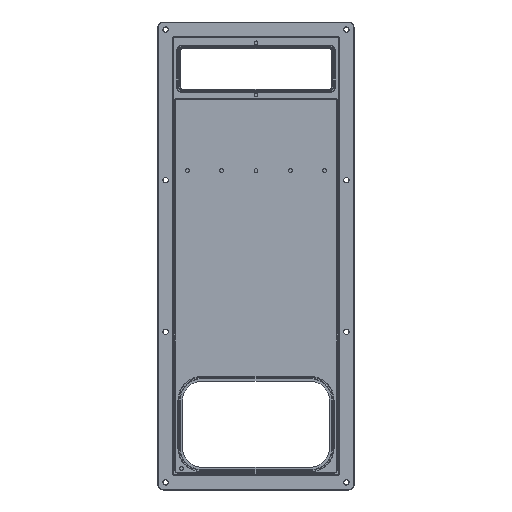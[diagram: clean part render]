
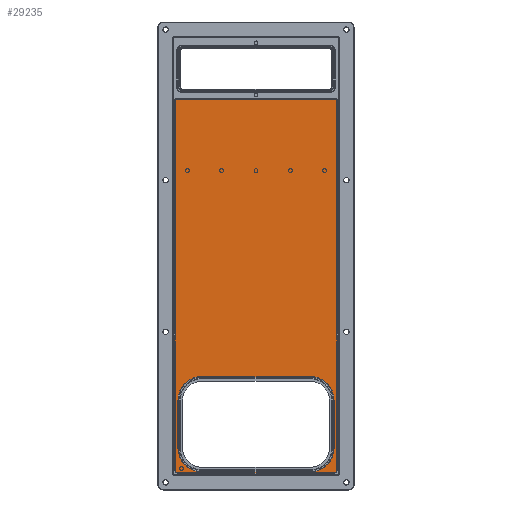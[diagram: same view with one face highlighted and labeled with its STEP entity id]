
A CAD part, front view. The second image highlights one B-rep face of the part: STEP entity #29235.
In plain terms, the highlighted planar face has unit normal (0, -1, 0).
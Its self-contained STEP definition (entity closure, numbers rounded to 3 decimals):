
#322=DIRECTION('',(1.,0.,0.));
#323=VECTOR('',#322,86.);
#324=CARTESIAN_POINT('',(-43.,-3.,-170.711));
#325=LINE('',#324,#323);
#326=CARTESIAN_POINT('',(43.,-3.,-152.));
#327=DIRECTION('',(0.,-1.,0.));
#328=DIRECTION('',(0.,0.,-1.));
#329=AXIS2_PLACEMENT_3D('',#326,#327,#328);
#331=DIRECTION('',(0.,0.,1.));
#332=VECTOR('',#331,38.);
#333=CARTESIAN_POINT('',(61.711,-3.,-152.));
#334=LINE('',#333,#332);
#335=CARTESIAN_POINT('',(43.,-3.,-114.));
#336=DIRECTION('',(0.,-1.,0.));
#337=DIRECTION('',(1.,0.,0.));
#338=AXIS2_PLACEMENT_3D('',#335,#336,#337);
#340=DIRECTION('',(-1.,0.,0.));
#341=VECTOR('',#340,86.);
#342=CARTESIAN_POINT('',(43.,-3.,-95.289));
#343=LINE('',#342,#341);
#344=CARTESIAN_POINT('',(-43.,-3.,-114.));
#345=DIRECTION('',(0.,-1.,0.));
#346=DIRECTION('',(0.,0.,1.));
#347=AXIS2_PLACEMENT_3D('',#344,#345,#346);
#349=DIRECTION('',(0.,0.,-1.));
#350=VECTOR('',#349,38.);
#351=CARTESIAN_POINT('',(-61.711,-3.,-114.));
#352=LINE('',#351,#350);
#353=CARTESIAN_POINT('',(-43.,-3.,-152.));
#354=DIRECTION('',(0.,-1.,0.));
#355=DIRECTION('',(-1.,0.,0.));
#356=AXIS2_PLACEMENT_3D('',#353,#354,#355);
#394=DIRECTION('',(0.,0.,1.));
#395=VECTOR('',#394,293.239);
#396=CARTESIAN_POINT('',(63.739,-3.,-169.439));
#397=LINE('',#396,#395);
#398=CARTESIAN_POINT('',(61.939,-3.,-171.239));
#399=CARTESIAN_POINT('',(61.978,-3.,-171.239));
#400=CARTESIAN_POINT('',(62.057,-3.,-171.236));
#401=CARTESIAN_POINT('',(62.174,-3.,-171.225));
#402=CARTESIAN_POINT('',(62.291,-3.,-171.206));
#403=CARTESIAN_POINT('',(62.405,-3.,-171.179));
#404=CARTESIAN_POINT('',(62.518,-3.,-171.145));
#405=CARTESIAN_POINT('',(62.628,-3.,-171.103));
#406=CARTESIAN_POINT('',(62.736,-3.,-171.054));
#407=CARTESIAN_POINT('',(62.84,-3.,-170.999));
#408=CARTESIAN_POINT('',(62.94,-3.,-170.937));
#409=CARTESIAN_POINT('',(63.036,-3.,-170.868));
#410=CARTESIAN_POINT('',(63.127,-3.,-170.793));
#411=CARTESIAN_POINT('',(63.213,-3.,-170.713));
#412=CARTESIAN_POINT('',(63.293,-3.,-170.627));
#413=CARTESIAN_POINT('',(63.368,-3.,-170.536));
#414=CARTESIAN_POINT('',(63.437,-3.,-170.44));
#415=CARTESIAN_POINT('',(63.499,-3.,-170.34));
#416=CARTESIAN_POINT('',(63.554,-3.,-170.236));
#417=CARTESIAN_POINT('',(63.603,-3.,-170.128));
#418=CARTESIAN_POINT('',(63.645,-3.,-170.018));
#419=CARTESIAN_POINT('',(63.679,-3.,-169.905));
#420=CARTESIAN_POINT('',(63.706,-3.,-169.791));
#421=CARTESIAN_POINT('',(63.725,-3.,-169.674));
#422=CARTESIAN_POINT('',(63.736,-3.,-169.557));
#423=CARTESIAN_POINT('',(63.739,-3.,-169.478));
#424=CARTESIAN_POINT('',(63.739,-3.,-169.439));
#426=DIRECTION('',(1.,0.,0.));
#427=VECTOR('',#426,123.878);
#428=CARTESIAN_POINT('',(-61.939,-3.,-171.239));
#429=LINE('',#428,#427);
#430=CARTESIAN_POINT('',(-63.739,-3.,-169.439));
#431=CARTESIAN_POINT('',(-63.739,-3.,-169.478));
#432=CARTESIAN_POINT('',(-63.736,-3.,-169.557));
#433=CARTESIAN_POINT('',(-63.725,-3.,-169.674));
#434=CARTESIAN_POINT('',(-63.706,-3.,-169.791));
#435=CARTESIAN_POINT('',(-63.679,-3.,-169.905));
#436=CARTESIAN_POINT('',(-63.645,-3.,-170.018));
#437=CARTESIAN_POINT('',(-63.603,-3.,-170.128));
#438=CARTESIAN_POINT('',(-63.554,-3.,-170.236));
#439=CARTESIAN_POINT('',(-63.499,-3.,-170.34));
#440=CARTESIAN_POINT('',(-63.437,-3.,-170.44));
#441=CARTESIAN_POINT('',(-63.368,-3.,-170.536));
#442=CARTESIAN_POINT('',(-63.293,-3.,-170.627));
#443=CARTESIAN_POINT('',(-63.213,-3.,-170.713));
#444=CARTESIAN_POINT('',(-63.127,-3.,-170.793));
#445=CARTESIAN_POINT('',(-63.036,-3.,-170.868));
#446=CARTESIAN_POINT('',(-62.94,-3.,-170.937));
#447=CARTESIAN_POINT('',(-62.84,-3.,-170.999));
#448=CARTESIAN_POINT('',(-62.736,-3.,-171.054));
#449=CARTESIAN_POINT('',(-62.628,-3.,-171.103));
#450=CARTESIAN_POINT('',(-62.518,-3.,-171.145));
#451=CARTESIAN_POINT('',(-62.405,-3.,-171.179));
#452=CARTESIAN_POINT('',(-62.291,-3.,-171.206));
#453=CARTESIAN_POINT('',(-62.174,-3.,-171.225));
#454=CARTESIAN_POINT('',(-62.057,-3.,-171.236));
#455=CARTESIAN_POINT('',(-61.978,-3.,-171.239));
#456=CARTESIAN_POINT('',(-61.939,-3.,-171.239));
#458=DIRECTION('',(0.,0.,-1.));
#459=VECTOR('',#458,293.239);
#460=CARTESIAN_POINT('',(-63.739,-3.,123.8));
#461=LINE('',#460,#459);
#462=DIRECTION('',(-1.,0.,0.));
#463=VECTOR('',#462,127.478);
#464=CARTESIAN_POINT('',(63.739,-3.,123.8));
#465=LINE('',#464,#463);
#28932=CARTESIAN_POINT('',(-43.,-3.,-170.711));
#28933=CARTESIAN_POINT('',(43.,-3.,-170.711));
#28934=VERTEX_POINT('',#28932);
#28935=VERTEX_POINT('',#28933);
#28938=CARTESIAN_POINT('',(61.711,-3.,-152.));
#28939=VERTEX_POINT('',#28938);
#28942=CARTESIAN_POINT('',(61.711,-3.,-114.));
#28943=VERTEX_POINT('',#28942);
#28946=CARTESIAN_POINT('',(43.,-3.,-95.289));
#28947=VERTEX_POINT('',#28946);
#28950=CARTESIAN_POINT('',(-43.,-3.,-95.289));
#28951=VERTEX_POINT('',#28950);
#28954=CARTESIAN_POINT('',(-61.711,-3.,-114.));
#28955=VERTEX_POINT('',#28954);
#28958=CARTESIAN_POINT('',(-61.711,-3.,-152.));
#28959=VERTEX_POINT('',#28958);
#28996=CARTESIAN_POINT('',(63.739,-3.,-169.439));
#28997=CARTESIAN_POINT('',(63.739,-3.,123.8));
#28998=VERTEX_POINT('',#28996);
#28999=VERTEX_POINT('',#28997);
#29000=VERTEX_POINT('',#398);
#29002=CARTESIAN_POINT('',(-61.939,-3.,-171.239));
#29003=VERTEX_POINT('',#29002);
#29006=VERTEX_POINT('',#430);
#29008=CARTESIAN_POINT('',(-63.739,-3.,123.8));
#29009=VERTEX_POINT('',#29008);
#29198=CARTESIAN_POINT('',(0.,-3.,0.));
#29199=DIRECTION('',(0.,1.,0.));
#29200=DIRECTION('',(1.,0.,0.));
#29201=AXIS2_PLACEMENT_3D('',#29198,#29199,#29200);
#29202=PLANE('',#29201);
#29204=ORIENTED_EDGE('',*,*,#29203,.F.);
#29206=ORIENTED_EDGE('',*,*,#29205,.F.);
#29208=ORIENTED_EDGE('',*,*,#29207,.F.);
#29210=ORIENTED_EDGE('',*,*,#29209,.F.);
#29212=ORIENTED_EDGE('',*,*,#29211,.F.);
#29214=ORIENTED_EDGE('',*,*,#29213,.F.);
#29215=EDGE_LOOP('',(#29204,#29206,#29208,#29210,#29212,#29214));
#29216=FACE_OUTER_BOUND('',#29215,.F.);
#29218=ORIENTED_EDGE('',*,*,#29217,.T.);
#29220=ORIENTED_EDGE('',*,*,#29219,.T.);
#29222=ORIENTED_EDGE('',*,*,#29221,.T.);
#29224=ORIENTED_EDGE('',*,*,#29223,.T.);
#29226=ORIENTED_EDGE('',*,*,#29225,.T.);
#29228=ORIENTED_EDGE('',*,*,#29227,.T.);
#29230=ORIENTED_EDGE('',*,*,#29229,.T.);
#29232=ORIENTED_EDGE('',*,*,#29231,.T.);
#29233=EDGE_LOOP('',(#29218,#29220,#29222,#29224,#29226,#29228,#29230,#29232));
#29234=FACE_BOUND('',#29233,.F.);
#29235=ADVANCED_FACE('',(#29216,#29234),#29202,.F.);
#330=CIRCLE('',#329,18.711);
#339=CIRCLE('',#338,18.711);
#348=CIRCLE('',#347,18.711);
#357=CIRCLE('',#356,18.711);
#425=B_SPLINE_CURVE_WITH_KNOTS('',3,(#398,#399,#400,#401,#402,#403,#404,#405,
#406,#407,#408,#409,#410,#411,#412,#413,#414,#415,#416,#417,#418,#419,#420,#421,
#422,#423,#424),.UNSPECIFIED.,.F.,.F.,(4,1,1,1,1,1,1,1,1,1,1,1,1,1,1,1,1,1,1,1,
1,1,1,1,4),(0.,0.042,0.083,0.125,0.167,
0.208,0.25,0.292,0.333,0.375,
0.417,0.458,0.5,0.542,0.583,
0.625,0.667,0.708,0.75,0.792,
0.833,0.875,0.917,0.958,1.),
.UNSPECIFIED.);
#457=B_SPLINE_CURVE_WITH_KNOTS('',3,(#430,#431,#432,#433,#434,#435,#436,#437,
#438,#439,#440,#441,#442,#443,#444,#445,#446,#447,#448,#449,#450,#451,#452,#453,
#454,#455,#456),.UNSPECIFIED.,.F.,.F.,(4,1,1,1,1,1,1,1,1,1,1,1,1,1,1,1,1,1,1,1,
1,1,1,1,4),(0.,0.042,0.083,0.125,0.167,
0.208,0.25,0.292,0.333,0.375,
0.417,0.458,0.5,0.542,0.583,
0.625,0.667,0.708,0.75,0.792,
0.833,0.875,0.917,0.958,1.),
.UNSPECIFIED.);
#29203=EDGE_CURVE('',#28998,#28999,#397,.T.);
#29205=EDGE_CURVE('',#29000,#28998,#425,.T.);
#29207=EDGE_CURVE('',#29003,#29000,#429,.T.);
#29209=EDGE_CURVE('',#29006,#29003,#457,.T.);
#29211=EDGE_CURVE('',#29009,#29006,#461,.T.);
#29213=EDGE_CURVE('',#28999,#29009,#465,.T.);
#29217=EDGE_CURVE('',#28934,#28935,#325,.T.);
#29219=EDGE_CURVE('',#28935,#28939,#330,.T.);
#29221=EDGE_CURVE('',#28939,#28943,#334,.T.);
#29223=EDGE_CURVE('',#28943,#28947,#339,.T.);
#29225=EDGE_CURVE('',#28947,#28951,#343,.T.);
#29227=EDGE_CURVE('',#28951,#28955,#348,.T.);
#29229=EDGE_CURVE('',#28955,#28959,#352,.T.);
#29231=EDGE_CURVE('',#28959,#28934,#357,.T.);
